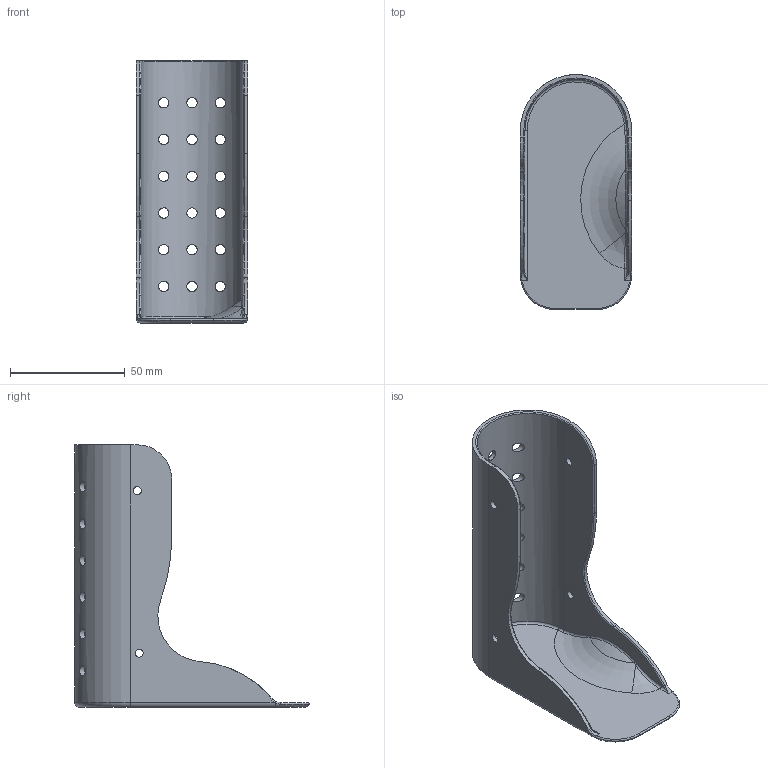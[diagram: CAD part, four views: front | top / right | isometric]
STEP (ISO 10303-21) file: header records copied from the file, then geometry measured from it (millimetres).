
FILE_DESCRIPTION(/* description */ (''),/* implementation_level */ '2;1');
FILE_NAME(/* name */ 'AFO size xs left foot_.step',/* time_stamp */ '2025-11-06T10:26:38+01:00',/* author */ (''),/* organization */ (''),/* preprocessor_version */ 'ST-DEVELOPER v20.1',/* originating_system */ 'Autodesk Translation Framework v14.17.0.0',/* authorisation */ '');
FILE_SCHEMA (('AUTOMOTIVE_DESIGN { 1 0 10303 214 3 1 1 }'));
Length unit declared in the file: millimetre
Products named in the file (1): Size xs left foot
Bounding box: 48.5 x 102.16 x 114.3 mm (x, y, z)
Volume: 34423.5 mm3; surface area: 35559 mm2
Topology: 1 solids, 1 shells, 105 faces, 330 edges, 223 vertices
Faces by surface type: cylinder 49, torus 26, bspline 19, plane 9, sphere 2
Full cylindrical faces by diameter (mm): 3.5 x4, 4.5 x18
Entity records: 5414 total; most frequent: CARTESIAN_POINT 2589, ORIENTED_EDGE 652, DIRECTION 479, EDGE_CURVE 326, VERTEX_POINT 223, AXIS2_PLACEMENT_3D 205, EDGE_LOOP 149, B_SPLINE_CURVE_WITH_KNOTS 139
